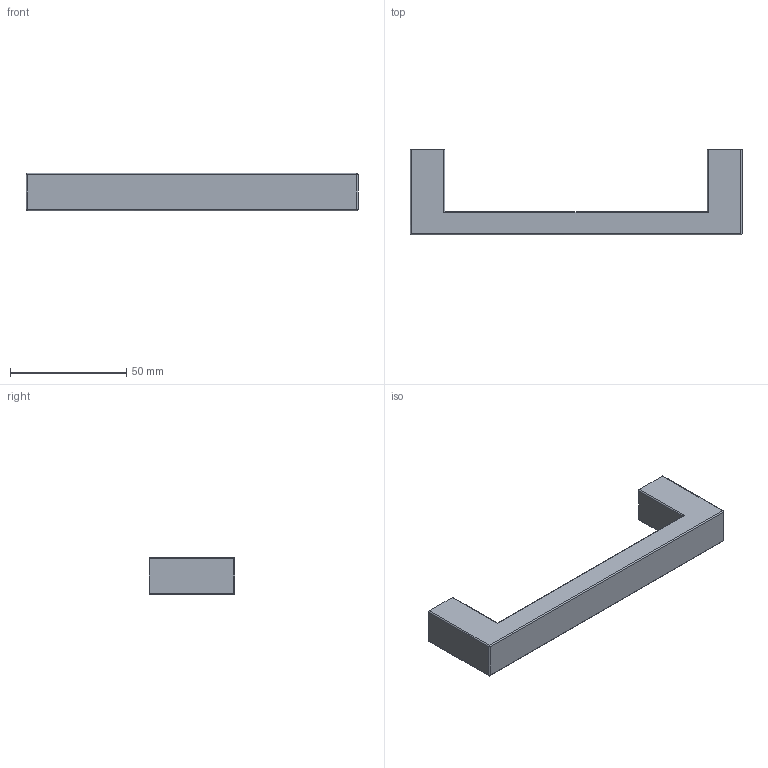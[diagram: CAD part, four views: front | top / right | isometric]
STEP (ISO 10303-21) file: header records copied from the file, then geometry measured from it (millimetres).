
FILE_DESCRIPTION( ( '' ), '1' );
FILE_NAME( 'C:/Documents and Settings/Sachin/Desktop/Sheet 10_1/stp/9069804.stp', '2013-10-22T06:51:53', ( '' ), ( '' ), ' ', ' ', ' ' );
FILE_SCHEMA( ( 'CONFIG_CONTROL_DESIGN' ) );
Length unit declared in the file: millimetre
Products named in the file (1): 1
Bounding box: 143 x 37 x 16 mm (x, y, z)
Volume: 35597.7 mm3; surface area: 11126.9 mm2
Topology: 1 solids, 1 shells, 36 faces, 88 edges, 56 vertices
Faces by surface type: cylinder 20, plane 16
Entity records: 1108 total; most frequent: DIRECTION 198, CARTESIAN_POINT 181, ORIENTED_EDGE 176, EDGE_CURVE 88, AXIS2_PLACEMENT_3D 73, VERTEX_POINT 56, LINE 52, VECTOR 52
